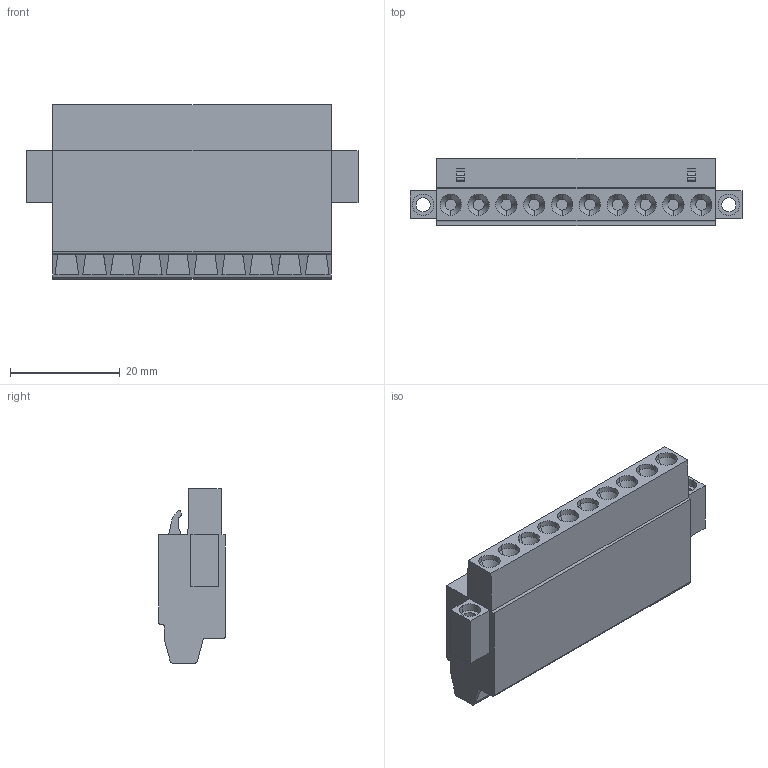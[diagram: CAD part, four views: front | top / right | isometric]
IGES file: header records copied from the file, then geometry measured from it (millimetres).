
Start section:  PTC IGES file: cu_conn_crio_10_pos_weid.igs
Global section: file name: cu_conn_crio_10_pos_weid.igs; native system: Pro/ENGINEER by Parametric Technology Corporation; preprocessor: 2006300; author: chrisj; organization: Unknown; date: 20081024.133400; units: inch
Bounding box: 60.6 x 12.2 x 31.8 mm (x, y, z)
Surface area: 6551.1 mm2 (no closed solid volume)
Topology: 0 solids, 0 shells, 230 faces, 1120 edges, 1120 vertices
Faces by surface type: bspline 145, revolution 85
